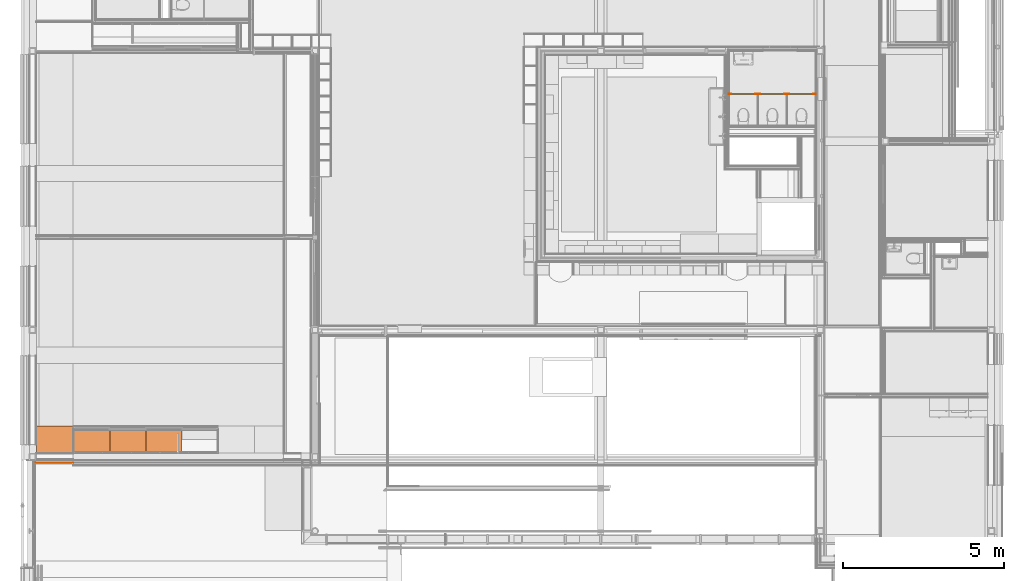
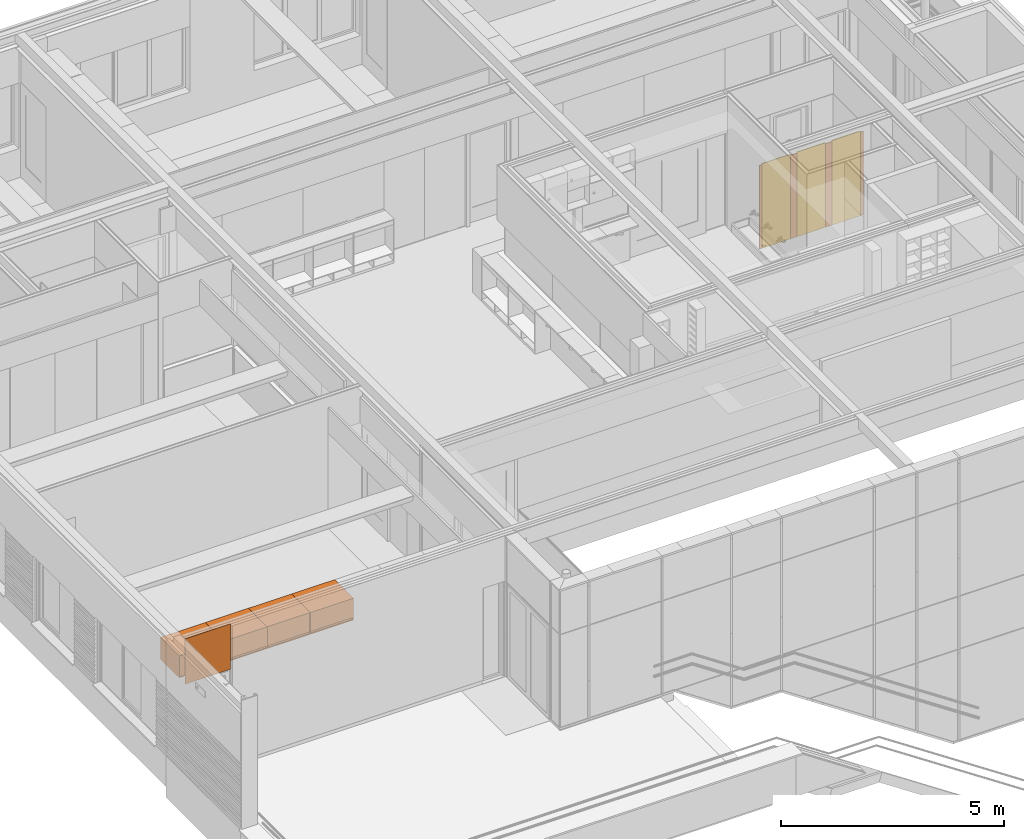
# One storey, part 126 of 137: 6 proxies, 3 doors, 3 openings.
"""IFC2X3 building model written with IfcOpenShell, lengths in millimetres."""

from ifc_helpers import new_model, entity, si_unit, converted_unit, derived_unit, money_unit, direction, frame, origin_with_axes, place, context, subcontext, project, spatial, faceted_brep, source, transform, mapped, material, type_object, type_shapes, element, fill, save


model = new_model("IFC2X3")

# Units and contexts
model_context = context("Model", 3, precision=0.01, world=origin_with_axes(), true_north=direction((0.0, 1.0)))
body_context = subcontext(model_context, "Body", "Model", "MODEL_VIEW")
ifc_project = project(units=[si_unit("LENGTHUNIT", "METRE", prefix="MILLI"), si_unit("AREAUNIT", "SQUARE_METRE"), si_unit("VOLUMEUNIT", "CUBIC_METRE"), converted_unit("PLANEANGLEUNIT", "DEGREE", entity("IfcPlaneAngleMeasure", 0.0174532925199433), si_unit("PLANEANGLEUNIT", "RADIAN"), dimensions=[0, 0, 0, 0, 0, 0, 0]), money_unit("EUR"), converted_unit("TIMEUNIT", "Year", entity("IfcTimeMeasure", 31556926.0), si_unit("TIMEUNIT", "SECOND"), dimensions=[0, 0, 1, 0, 0, 0, 0]), si_unit("MASSUNIT", "GRAM", prefix="KILO"), si_unit("THERMODYNAMICTEMPERATUREUNIT", "DEGREE_CELSIUS"), si_unit("LUMINOUSINTENSITYUNIT", "LUMEN"), si_unit("ENERGYUNIT", "JOULE", prefix="MEGA"), derived_unit("THERMALCONDUCTANCEUNIT", [(si_unit("POWERUNIT", "WATT"), 1), (si_unit("LENGTHUNIT", "METRE"), -1), (si_unit("THERMODYNAMICTEMPERATUREUNIT", "KELVIN"), -1)]), derived_unit("SPECIFICHEATCAPACITYUNIT", [(si_unit("ENERGYUNIT", "JOULE"), 1), (si_unit("MASSUNIT", "GRAM", prefix="KILO"), -1), (si_unit("THERMODYNAMICTEMPERATUREUNIT", "KELVIN"), -1)]), derived_unit("MASSDENSITYUNIT", [(si_unit("MASSUNIT", "GRAM", prefix="KILO"), 1), (si_unit("VOLUMEUNIT", "CUBIC_METRE"), -1)])], contexts=[model_context])

# Site, building, storey
site_placement = place(None, origin_with_axes())
site = spatial("IfcSite", under=ifc_project, at=site_placement, Name="Site", CompositionType="ELEMENT")
building_placement = place(site_placement, origin_with_axes())
building = spatial("IfcBuilding", under=site, at=building_placement, Name="Naam gebouw", CompositionType="ELEMENT")
storey_placement = place(building_placement, frame((0.0, 0.0, 3960.0), z_axis=(0.0, 0.0, 1.0), x_axis=(1.0, 0.0, 0.0)))
storey = spatial("IfcBuildingStorey", under=building, at=storey_placement, Name="1e verdieping", CompositionType="ELEMENT", Elevation=3960.0)

# Proxy, openings, doors
ifc_material_1 = material(Name="ALG - ALGEMEEN")
building_element_proxy_type_1 = type_object("IfcBuildingElementProxyType", Name="ALG - ALGEMEEN 20", PredefinedType="NOTDEFINED")
proxy_1_placement = place(storey_placement, frame((21664.99903999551, 18114.9998112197, 99.99999999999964), z_axis=(0.0, 0.0, 1.0), x_axis=(1.0, 0.0, 0.0)))
proxy_1 = element("IfcBuildingElementProxy", 1, at=proxy_1_placement, inside=storey, type_object=building_element_proxy_type_1, material=ifc_material_1, Name="_Wand-x", context=body_context, shape_type="Brep", body=[
    faceted_brep([(1879.999999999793, 10.00000000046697, 2290.0), (1879.999999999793, 10.00000000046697, 0.0), (1719.999999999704, 10.00000000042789, 0.0), (1719.999999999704, 10.00000000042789, 2290.0), (1879.9999999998, -9.999999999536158, 0.0), (1879.9999999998, -9.999999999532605, 2290.0), (1719.999999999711, -9.999999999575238, 0.0), (1719.999999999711, -9.999999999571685, 2290.0)], [[[0, 1, 2, 3]], [[4, 1, 0, 5]], [[1, 4, 6, 2]], [[2, 6, 7, 3]], [[5, 0, 3, 7]], [[4, 5, 7, 6]]]),
    faceted_brep([(2619.999999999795, 10.00000000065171, 0.0), (2619.999999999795, 10.00000000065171, 2290.0), (2699.999999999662, 10.00000000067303, 2290.0), (2699.999999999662, 10.00000000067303, 0.0), (2619.999999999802, -9.999999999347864, 2290.0), (2619.999999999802, -9.999999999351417, 0.0), (2699.999999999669, -9.999999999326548, 2290.0), (2699.999999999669, -9.9999999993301, 0.0)], [[[0, 1, 2, 3]], [[4, 1, 0, 5]], [[1, 4, 6, 2]], [[6, 7, 3, 2]], [[5, 0, 3, 7]], [[4, 5, 7, 6]]]),
    faceted_brep([(74.99960070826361, -9.9999999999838, 2290.0), (74.99960070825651, 10.00000000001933, 2290.0), (0.0, 10.00000000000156, 2290.0), (0.0, -10.00000000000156, 2290.0), (74.99960070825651, 10.00000000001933, 0.0), (74.99960070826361, -9.9999999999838, 0.0), (0.0, 10.00000000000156, 0.0), (0.0, -10.00000000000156, 0.0)], [[[0, 1, 2, 3]], [[4, 1, 0, 5]], [[1, 4, 6, 2]], [[6, 7, 3, 2]], [[5, 0, 3, 7]], [[4, 5, 7, 6]]]),
    faceted_brep([(814.9996007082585, 10.00000000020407, 0.0), (814.9996007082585, 10.00000000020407, 2290.0), (979.999999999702, 10.0000000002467, 2290.0), (979.999999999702, 10.0000000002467, 0.0), (814.9996007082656, -9.999999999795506, 2290.0), (814.9996007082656, -9.999999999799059, 0.0), (979.9999999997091, -9.999999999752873, 2290.0), (979.9999999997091, -9.999999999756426, 0.0)], [[[0, 1, 2, 3]], [[4, 1, 0, 5]], [[1, 4, 6, 2]], [[2, 6, 7, 3]], [[5, 0, 3, 7]], [[4, 5, 7, 6]]]),
])
opening_1_placement = place(proxy_1_placement, frame((1349.99999999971, -3.339550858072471e-10, 0.0), z_axis=(0.0, 0.0, 1.0), x_axis=(1.0, 0.0, 0.0)))
opening_1 = element("IfcOpeningElement", 2, at=opening_1_placement, cuts=proxy_1, Name="_-", context=body_context, shape_type="Brep", body=[
    faceted_brep([(-370.000000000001, -11.00000000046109, 2320.0), (-370.000000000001, -11.00000000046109, -69.99999999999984), (370.000000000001, -11.0000000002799, -69.99999999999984), (370.000000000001, -11.0000000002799, 2320.0), (-370.0000000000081, 11.00000000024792, 2320.0), (-370.0000000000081, 11.00000000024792, -69.99999999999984), (369.9999999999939, 11.00000000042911, -69.99999999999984), (369.9999999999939, 11.00000000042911, 2320.0)], [[[0, 1, 2, 3]], [[4, 5, 1, 0]], [[5, 6, 2, 1]], [[6, 7, 3, 2]], [[7, 4, 0, 3]], [[6, 5, 4, 7]]]),
])
opening_2_placement = place(proxy_1_placement, frame((444.9996007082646, -1.101341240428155e-10, 0.0), z_axis=(0.0, 0.0, 1.0), x_axis=(1.0, 0.0, 0.0)))
opening_2 = element("IfcOpeningElement", 3, at=opening_2_placement, cuts=proxy_1, Name="_-", context=body_context, shape_type="Brep", body=[
    faceted_brep([(-370.000000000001, -11.00000000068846, 2320.0), (-370.000000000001, -11.00000000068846, -69.99999999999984), (370.000000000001, -11.00000000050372, -69.99999999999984), (370.000000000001, -11.00000000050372, 2320.0), (-370.0000000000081, 11.00000000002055, 2320.0), (-370.0000000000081, 11.00000000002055, -69.99999999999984), (369.9999999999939, 11.00000000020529, -69.99999999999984), (369.9999999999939, 11.00000000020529, 2320.0)], [[[0, 1, 2, 3]], [[4, 5, 1, 0]], [[5, 6, 2, 1]], [[6, 7, 3, 2]], [[7, 4, 0, 3]], [[6, 5, 4, 7]]]),
])
opening_3_placement = place(proxy_1_placement, frame((2249.999999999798, -5.577760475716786e-10, 0.0), z_axis=(0.0, 0.0, 1.0), x_axis=(1.0, 0.0, 0.0)))
opening_3 = element("IfcOpeningElement", 4, at=opening_3_placement, cuts=proxy_1, Name="_-", context=body_context, shape_type="Brep", body=[
    faceted_brep([(-369.9999999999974, -11.00000000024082, 2320.0), (-369.9999999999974, -11.00000000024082, -69.99999999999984), (370.0000000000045, -11.00000000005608, -69.99999999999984), (370.0000000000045, -11.00000000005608, 2320.0), (-370.0000000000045, 11.00000000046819, 2320.0), (-370.0000000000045, 11.00000000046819, -69.99999999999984), (369.9999999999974, 11.00000000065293, -69.99999999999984), (369.9999999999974, 11.00000000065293, 2320.0)], [[[0, 1, 2, 3]], [[4, 5, 1, 0]], [[5, 6, 2, 1]], [[6, 7, 3, 2]], [[7, 4, 0, 3]], [[6, 5, 4, 7]]]),
])
door_style_1 = type_object("IfcDoorStyle", Name="D1 26", ConstructionType="NOTDEFINED", OperationType="SINGLE_SWING_RIGHT", ParameterTakesPrecedence=False, Sizeable=False)
shared_shape_1 = source(origin_with_axes(), body_context, "Body", "Brep", [
    faceted_brep([(-367.0, -20.0, 0.0), (-367.0, -20.0, 2300.0), (-370.0, -20.0, 2300.0), (-370.0, -20.0, 0.0), (-367.0, 0.0, 2300.0), (-367.0, 0.0, 0.0), (-370.0, 0.0, 2300.0), (-370.0, 0.0, 0.0)], [[[0, 1, 2, 3]], [[4, 1, 0, 5]], [[1, 4, 6, 2]], [[7, 3, 2, 6]], [[5, 0, 3, 7]], [[4, 5, 7, 6]]]),
    faceted_brep([(367.0, 0.0, 2300.0), (367.0, -20.0, 2300.0), (370.0, -20.0, 2300.0), (370.0, 0.0, 2300.0), (367.0, -20.0, 0.0), (367.0, 0.0, 0.0), (370.0, -20.0, 0.0), (370.0, 0.0, 0.0)], [[[0, 1, 2, 3]], [[4, 1, 0, 5]], [[1, 4, 6, 2]], [[3, 2, 6, 7]], [[5, 0, 3, 7]], [[4, 5, 7, 6]]]),
    faceted_brep([(-367.0, -20.0, 2300.0), (-367.0, -20.0, 2317.0), (367.0, -20.0, 2317.0), (367.0, -20.0, 2300.0), (370.0, -20.0, 2300.0), (370.0, -20.0, 2320.0), (-370.0, -20.0, 2320.0), (-370.0, -20.0, 2300.0), (-367.0, 0.0, 2300.0), (-367.0, 0.0, 2317.0), (367.0, 0.0, 2317.0), (367.0, 0.0, 2300.0), (370.0, 0.0, 2300.0), (370.0, 0.0, 2320.0), (-370.0, 0.0, 2320.0), (-370.0, 0.0, 2300.0)], [[[0, 1, 2, 3, 4, 5, 6, 7]], [[1, 0, 8, 9]], [[2, 1, 9, 10]], [[3, 2, 10, 11]], [[3, 11, 12, 4]], [[13, 5, 4, 12]], [[14, 6, 5, 13]], [[15, 7, 6, 14]], [[8, 0, 7, 15]], [[9, 8, 15, 14, 13, 12, 11, 10]]]),
    faceted_brep([(367.0, 0.0, 0.0), (367.0, -20.0, 0.0), (-367.0, -20.0, 0.0), (-367.0, 0.0, 0.0), (367.0, 0.0, 2317.0), (367.0, -20.00000000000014, 2317.0), (-367.0, -20.00000000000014, 2317.0), (-367.0, 0.0, 2317.0)], [[[0, 1, 2, 3]], [[4, 5, 1, 0]], [[1, 5, 6, 2]], [[3, 2, 6, 7]], [[0, 3, 7, 4]], [[7, 6, 5, 4]]]),
])
type_shapes(door_style_1, [shared_shape_1])
door_1_placement = place(opening_3_placement, frame((-350.0000000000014, 0.0, 0.0), z_axis=(0.0, 0.0, 1.0), x_axis=(1.0, 0.0, 0.0)))
door_1 = element("IfcDoor", 5, at=door_1_placement, inside=storey, type_object=door_style_1, Name="_-", ObjectType="DOOR", OverallHeight=2320.0, OverallWidth=740.0, context=body_context, shape_type="MappedRepresentation", body=[
    mapped(shared_shape_1, transform((349.9999999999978, 10.00000000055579, 0.0))),
])
fill(opening_3, door_1)
door_style_2 = type_object("IfcDoorStyle", Name="D1 26", ConstructionType="NOTDEFINED", OperationType="SINGLE_SWING_LEFT", ParameterTakesPrecedence=False, Sizeable=False)
shared_shape_2 = source(origin_with_axes(), body_context, "Body", "Brep", [
    faceted_brep([(367.0, -20.0, 0.0), (370.0, -20.0, 0.0), (370.0, -20.0, 2300.0), (367.0, -20.0, 2300.0), (367.0, 0.0, 0.0), (370.0, 0.0, 0.0), (370.0, 0.0, 2300.0), (367.0, 0.0, 2300.0)], [[[0, 1, 2, 3]], [[4, 5, 1, 0]], [[5, 6, 2, 1]], [[3, 2, 6, 7]], [[7, 4, 0, 3]], [[7, 6, 5, 4]]]),
    faceted_brep([(-367.0, 0.0, 2300.0), (-370.0, 0.0, 2300.0), (-370.0, -20.0, 2300.0), (-367.0, -20.0, 2300.0), (-367.0, 0.0, 0.0), (-370.0, 0.0, 0.0), (-370.0, -20.0, 0.0), (-367.0, -20.0, 0.0)], [[[0, 1, 2, 3]], [[4, 5, 1, 0]], [[1, 5, 6, 2]], [[3, 2, 6, 7]], [[7, 4, 0, 3]], [[7, 6, 5, 4]]]),
    faceted_brep([(367.0, -20.0, 2300.0), (370.0, -20.0, 2300.0), (370.0, -20.0, 2320.0), (-370.0, -20.0, 2320.0), (-370.0, -20.0, 2300.0), (-367.0, -20.0, 2300.0), (-367.0, -20.0, 2317.0), (367.0, -20.0, 2317.0), (367.0, 0.0, 2300.0), (370.0, 0.0, 2300.0), (370.0, 0.0, 2320.0), (-370.0, 0.0, 2320.0), (-370.0, 0.0, 2300.0), (-367.0, 0.0, 2300.0), (-367.0, 0.0, 2317.0), (367.0, 0.0, 2317.0)], [[[0, 1, 2, 3, 4, 5, 6, 7]], [[8, 9, 1, 0]], [[9, 10, 2, 1]], [[10, 11, 3, 2]], [[11, 12, 4, 3]], [[5, 4, 12, 13]], [[5, 13, 14, 6]], [[6, 14, 15, 7]], [[7, 15, 8, 0]], [[15, 14, 13, 12, 11, 10, 9, 8]]]),
    faceted_brep([(-367.0, 0.0, 0.0), (367.0, 0.0, 0.0), (367.0, -20.0, 0.0), (-367.0, -20.0, 0.0), (-367.0, 0.0, 2317.0), (367.0, 0.0, 2317.0), (367.0, -20.00000000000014, 2317.0), (-367.0, -20.00000000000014, 2317.0)], [[[0, 1, 2, 3]], [[0, 4, 5, 1]], [[1, 5, 6, 2]], [[3, 2, 6, 7]], [[4, 0, 3, 7]], [[5, 4, 7, 6]]]),
])
type_shapes(door_style_2, [shared_shape_2])
door_2_placement = place(opening_1_placement, frame((-350.0000000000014, 0.0, 0.0), z_axis=(0.0, 0.0, 1.0), x_axis=(1.0, 0.0, 0.0)))
door_2 = element("IfcDoor", 6, at=door_2_placement, inside=storey, type_object=door_style_2, Name="_-", ObjectType="DOOR", OverallHeight=2320.0, OverallWidth=740.0, context=body_context, shape_type="MappedRepresentation", body=[
    mapped(shared_shape_2, transform((349.9999999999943, 10.00000000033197, 0.0))),
])
fill(opening_1, door_2)
door_3_placement = place(opening_2_placement, frame((-350.0000000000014, 0.0, 0.0), z_axis=(0.0, 0.0, 1.0), x_axis=(1.0, 0.0, 0.0)))
door_3 = element("IfcDoor", 7, at=door_3_placement, inside=storey, type_object=door_style_2, Name="_-", ObjectType="DOOR", OverallHeight=2320.0, OverallWidth=740.0, context=body_context, shape_type="MappedRepresentation", body=[
    mapped(shared_shape_2, transform((349.9999999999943, 10.00000000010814, 0.0))),
])
fill(opening_2, door_3)

# Proxies
building_element_proxy_type_2 = type_object("IfcBuildingElementProxyType", Name="Onderkast recht 26", PredefinedType="NOTDEFINED")
proxy_2_placement = place(storey_placement, frame((1373.999999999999, 6993.999661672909, 2600.0), z_axis=(0.0, 0.0, 1.0), x_axis=(-1.0, 0.0, 0.0)))
element("IfcBuildingElementProxy", 8, at=proxy_2_placement, inside=storey, type_object=building_element_proxy_type_2, Name="_Leeg", context=body_context, shape_type="Brep", body=[
    faceted_brep([(-1102.000141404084, -1.999999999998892, 0.0), (-1102.000141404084, -1.999999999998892, 17.99999999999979), (-1102.000141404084, 0.0, 17.99999999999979), (-1102.000141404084, 0.0, 0.0), (-18.00000000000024, -1.999999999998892, 17.99999999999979), (-18.00000000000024, -1.999999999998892, 0.0), (-18.00000000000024, 0.0, 17.99999999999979), (-18.00000000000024, 0.0, 0.0)], [[[0, 1, 2, 3]], [[4, 1, 0, 5]], [[1, 4, 6, 2]], [[7, 3, 2, 6]], [[5, 0, 3, 7]], [[4, 5, 7, 6]]]),
    faceted_brep([(-1102.000141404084, -8.999999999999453, 69.99999999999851), (-1102.000141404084, -17.99999999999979, 69.99999999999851), (-1102.000141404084, -17.99999999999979, 581.9999999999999), (-1102.000141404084, -8.999999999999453, 581.9999999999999), (-18.00000000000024, -17.99999999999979, 69.99999999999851), (-18.00000000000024, -9.000000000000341, 69.99999999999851), (-18.00000000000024, -17.99999999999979, 581.9999999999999), (-18.00000000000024, -9.000000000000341, 581.9999999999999)], [[[0, 1, 2, 3]], [[4, 1, 0, 5]], [[1, 4, 6, 2]], [[7, 3, 2, 6]], [[5, 0, 3, 7]], [[4, 5, 7, 6]]]),
    faceted_brep([(-1102.000141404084, -827.0, 581.9999999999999), (-18.00000000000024, -827.0, 581.9999999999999), (-18.00000000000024, -827.0, 599.9999999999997), (-1102.000141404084, -827.0, 599.9999999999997), (-18.00000000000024, 0.0, 581.9999999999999), (-1102.000141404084, 0.0, 581.9999999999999), (-18.00000000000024, 0.0, 599.9999999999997), (-1102.000141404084, 0.0, 599.9999999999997)], [[[0, 1, 2, 3]], [[4, 1, 0, 5]], [[1, 4, 6, 2]], [[3, 2, 6, 7]], [[5, 0, 3, 7]], [[4, 5, 7, 6]]]),
    faceted_brep([(-18.00000000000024, -1.999999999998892, 0.0), (-18.00000000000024, -1.999999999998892, 69.99999999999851), (-18.00000000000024, -21.99999999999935, 69.99999999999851), (-18.00000000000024, -21.99999999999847, 0.0), (-18.00000000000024, -827.0, 0.0), (-18.00000000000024, -827.0, 599.9999999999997), (-18.00000000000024, 0.0, 599.9999999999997), (-18.00000000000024, 0.0, 0.0), (0.0, -1.999999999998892, 0.0), (0.0, -1.999999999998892, 69.99999999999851), (0.0, -21.99999999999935, 69.99999999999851), (0.0, -21.99999999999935, 0.0), (0.0, -827.0, 0.0), (0.0, -827.0, 599.9999999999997), (0.0, 0.0, 599.9999999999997), (0.0, 0.0, 0.0)], [[[0, 1, 2, 3, 4, 5, 6, 7]], [[1, 0, 8, 9]], [[2, 1, 9, 10]], [[3, 2, 10, 11]], [[3, 11, 12, 4]], [[4, 12, 13, 5]], [[13, 14, 6, 5]], [[15, 7, 6, 14]], [[8, 0, 7, 15]], [[9, 8, 15, 14, 13, 12, 11, 10]]]),
    faceted_brep([(-1120.000141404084, -1.999999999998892, 0.0), (-1120.000141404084, -1.999999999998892, 69.99999999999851), (-1120.000141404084, -21.99999999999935, 69.99999999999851), (-1120.000141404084, -21.99999999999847, 0.0), (-1120.000141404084, -827.0, 0.0), (-1120.000141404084, -827.0, 599.9999999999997), (-1120.000141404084, 0.0, 599.9999999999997), (-1120.000141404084, 0.0, 0.0), (-1102.000141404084, -1.999999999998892, 0.0), (-1102.000141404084, -1.999999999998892, 69.99999999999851), (-1102.000141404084, -21.99999999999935, 69.99999999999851), (-1102.000141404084, -21.99999999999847, 0.0), (-1102.000141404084, -827.0, 0.0), (-1102.000141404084, -827.0, 599.9999999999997), (-1102.000141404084, 0.0, 599.9999999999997), (-1102.000141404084, 0.0, 0.0)], [[[0, 1, 2, 3, 4, 5, 6, 7]], [[1, 0, 8, 9]], [[2, 1, 9, 10]], [[3, 2, 10, 11]], [[3, 11, 12, 4]], [[4, 12, 13, 5]], [[6, 5, 13, 14]], [[15, 7, 6, 14]], [[8, 0, 7, 15]], [[9, 8, 15, 14, 13, 12, 11, 10]]]),
    faceted_brep([(-18.00000000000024, -21.99999999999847, 17.99999999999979), (-1102.000141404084, -21.99999999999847, 17.99999999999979), (-1102.000141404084, -827.0, 17.99999999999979), (-18.00000000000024, -827.0, 17.99999999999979), (-1102.000141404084, -21.99999999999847, 0.0), (-18.00000000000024, -21.99999999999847, 0.0), (-1102.000141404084, -827.0, 0.0), (-18.00000000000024, -827.0, 0.0)], [[[0, 1, 2, 3]], [[4, 1, 0, 5]], [[1, 4, 6, 2]], [[6, 7, 3, 2]], [[5, 0, 3, 7]], [[4, 5, 7, 6]]]),
    faceted_brep([(-1.000000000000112, -827.0, 1.000000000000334), (-1.000000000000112, -844.9999999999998, 1.000000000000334), (-1119.000141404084, -844.9999999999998, 1.000000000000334), (-1119.000141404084, -827.0, 1.000000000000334), (-1.000000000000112, -827.0, 599.0000000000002), (-1.000000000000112, -844.9999999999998, 599.0000000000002), (-1119.000141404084, -844.9999999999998, 599.0000000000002), (-1119.000141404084, -827.0, 599.0000000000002)], [[[0, 1, 2, 3]], [[4, 5, 1, 0]], [[1, 5, 6, 2]], [[3, 2, 6, 7]], [[0, 3, 7, 4]], [[7, 6, 5, 4]]]),
])
proxy_3_placement = place(storey_placement, frame((3614.000282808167, 6993.999661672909, 2600.0), z_axis=(0.0, 0.0, 1.0), x_axis=(-1.0, 0.0, 0.0)))
element("IfcBuildingElementProxy", 9, at=proxy_3_placement, inside=storey, type_object=building_element_proxy_type_2, Name="_Leeg", context=body_context, shape_type="Brep", body=[
    faceted_brep([(-1102.000141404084, -1.99999999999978, 0.0), (-1102.000141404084, -1.99999999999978, 17.99999999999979), (-1102.000141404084, 0.0, 17.99999999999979), (-1102.000141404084, 0.0, 0.0), (-17.99999999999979, -1.99999999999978, 17.99999999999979), (-17.99999999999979, -1.99999999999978, 0.0), (-17.99999999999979, 0.0, 17.99999999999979), (-17.99999999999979, 0.0, 0.0)], [[[0, 1, 2, 3]], [[4, 1, 0, 5]], [[1, 4, 6, 2]], [[7, 3, 2, 6]], [[5, 0, 3, 7]], [[4, 5, 7, 6]]]),
    faceted_brep([(-1102.000141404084, -9.000000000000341, 69.99999999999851), (-1102.000141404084, -18.00000000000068, 69.99999999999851), (-1102.000141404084, -18.00000000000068, 581.9999999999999), (-1102.000141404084, -9.000000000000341, 581.9999999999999), (-18.00000000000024, -18.00000000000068, 69.99999999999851), (-17.99999999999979, -9.00000000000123, 69.99999999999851), (-18.00000000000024, -18.00000000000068, 581.9999999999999), (-17.99999999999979, -9.00000000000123, 581.9999999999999)], [[[0, 1, 2, 3]], [[4, 1, 0, 5]], [[1, 4, 6, 2]], [[7, 3, 2, 6]], [[5, 0, 3, 7]], [[4, 5, 7, 6]]]),
    faceted_brep([(-1102.000141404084, -827.0000000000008, 581.9999999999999), (-18.00000000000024, -827.0000000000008, 581.9999999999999), (-18.00000000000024, -827.0000000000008, 599.9999999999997), (-1102.000141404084, -827.0000000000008, 599.9999999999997), (-17.99999999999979, 0.0, 581.9999999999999), (-1102.000141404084, 0.0, 581.9999999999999), (-17.99999999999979, 0.0, 599.9999999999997), (-1102.000141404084, 0.0, 599.9999999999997)], [[[0, 1, 2, 3]], [[4, 1, 0, 5]], [[1, 4, 6, 2]], [[3, 2, 6, 7]], [[5, 0, 3, 7]], [[4, 5, 7, 6]]]),
    faceted_brep([(-17.99999999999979, -1.99999999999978, 0.0), (-18.00000000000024, -1.99999999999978, 69.99999999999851), (-18.00000000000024, -21.99999999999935, 69.99999999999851), (-17.99999999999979, -21.99999999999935, 0.0), (-18.00000000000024, -827.0000000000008, 0.0), (-18.00000000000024, -827.0000000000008, 599.9999999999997), (-17.99999999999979, 0.0, 599.9999999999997), (-17.99999999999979, 0.0, 0.0), (0.0, -1.999999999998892, 0.0), (0.0, -1.999999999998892, 69.99999999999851), (0.0, -21.99999999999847, 69.99999999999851), (0.0, -21.99999999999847, 0.0), (0.0, -827.0, 0.0), (0.0, -827.0, 599.9999999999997), (0.0, 0.0, 599.9999999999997), (0.0, 0.0, 0.0)], [[[0, 1, 2, 3, 4, 5, 6, 7]], [[1, 0, 8, 9]], [[2, 1, 9, 10]], [[3, 2, 10, 11]], [[3, 11, 12, 4]], [[4, 12, 13, 5]], [[13, 14, 6, 5]], [[15, 7, 6, 14]], [[8, 0, 7, 15]], [[9, 8, 15, 14, 13, 12, 11, 10]]]),
    faceted_brep([(-1120.000141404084, -1.99999999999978, 0.0), (-1120.000141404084, -1.99999999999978, 69.99999999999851), (-1120.000141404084, -21.99999999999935, 69.99999999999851), (-1120.000141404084, -21.99999999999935, 0.0), (-1120.000141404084, -827.0000000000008, 0.0), (-1120.000141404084, -827.0000000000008, 599.9999999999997), (-1120.000141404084, 0.0, 599.9999999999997), (-1120.000141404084, 0.0, 0.0), (-1102.000141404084, -1.99999999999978, 0.0), (-1102.000141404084, -1.99999999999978, 69.99999999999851), (-1102.000141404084, -21.99999999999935, 69.99999999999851), (-1102.000141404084, -21.99999999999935, 0.0), (-1102.000141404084, -827.0000000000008, 0.0), (-1102.000141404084, -827.0000000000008, 599.9999999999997), (-1102.000141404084, 0.0, 599.9999999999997), (-1102.000141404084, 0.0, 0.0)], [[[0, 1, 2, 3, 4, 5, 6, 7]], [[1, 0, 8, 9]], [[2, 1, 9, 10]], [[3, 2, 10, 11]], [[3, 11, 12, 4]], [[4, 12, 13, 5]], [[6, 5, 13, 14]], [[15, 7, 6, 14]], [[8, 0, 7, 15]], [[9, 8, 15, 14, 13, 12, 11, 10]]]),
    faceted_brep([(-17.99999999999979, -21.99999999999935, 17.99999999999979), (-1102.000141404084, -21.99999999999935, 17.99999999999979), (-1102.000141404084, -827.0000000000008, 17.99999999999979), (-18.00000000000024, -827.0000000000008, 17.99999999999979), (-1102.000141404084, -21.99999999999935, 0.0), (-17.99999999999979, -21.99999999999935, 0.0), (-1102.000141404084, -827.0000000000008, 0.0), (-18.00000000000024, -827.0000000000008, 0.0)], [[[0, 1, 2, 3]], [[4, 1, 0, 5]], [[1, 4, 6, 2]], [[6, 7, 3, 2]], [[5, 0, 3, 7]], [[4, 5, 7, 6]]]),
    faceted_brep([(-0.9999999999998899, -827.0, 1.000000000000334), (-0.9999999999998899, -844.9999999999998, 1.000000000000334), (-1119.000141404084, -845.0000000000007, 1.000000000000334), (-1119.000141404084, -827.0000000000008, 1.000000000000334), (-0.9999999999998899, -827.0, 599.0000000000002), (-0.9999999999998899, -844.9999999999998, 599.0000000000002), (-1119.000141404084, -845.0000000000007, 599.0000000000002), (-1119.000141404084, -827.0000000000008, 599.0000000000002)], [[[0, 1, 2, 3]], [[4, 5, 1, 0]], [[1, 5, 6, 2]], [[3, 2, 6, 7]], [[0, 3, 7, 4]], [[7, 6, 5, 4]]]),
])
proxy_4_placement = place(storey_placement, frame((2494.000141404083, 6993.999661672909, 2600.0), z_axis=(0.0, 0.0, 1.0), x_axis=(-1.0, 0.0, 0.0)))
element("IfcBuildingElementProxy", 10, at=proxy_4_placement, inside=storey, type_object=building_element_proxy_type_2, Name="_Leeg", context=body_context, shape_type="Brep", body=[
    faceted_brep([(-1102.000141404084, -1.999999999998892, 0.0), (-1102.000141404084, -1.999999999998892, 17.99999999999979), (-1102.000141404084, 0.0, 17.99999999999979), (-1102.000141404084, 0.0, 0.0), (-17.99999999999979, -1.999999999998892, 17.99999999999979), (-17.99999999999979, -1.999999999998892, 0.0), (-17.99999999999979, 0.0, 17.99999999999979), (-17.99999999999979, 0.0, 0.0)], [[[0, 1, 2, 3]], [[4, 1, 0, 5]], [[1, 4, 6, 2]], [[7, 3, 2, 6]], [[5, 0, 3, 7]], [[4, 5, 7, 6]]]),
    faceted_brep([(-1102.000141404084, -8.999999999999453, 69.99999999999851), (-1102.000141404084, -17.99999999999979, 69.99999999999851), (-1102.000141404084, -17.99999999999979, 581.9999999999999), (-1102.000141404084, -8.999999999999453, 581.9999999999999), (-18.00000000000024, -17.99999999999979, 69.99999999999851), (-17.99999999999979, -9.000000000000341, 69.99999999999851), (-18.00000000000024, -17.99999999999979, 581.9999999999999), (-17.99999999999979, -9.000000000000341, 581.9999999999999)], [[[0, 1, 2, 3]], [[4, 1, 0, 5]], [[1, 4, 6, 2]], [[7, 3, 2, 6]], [[5, 0, 3, 7]], [[4, 5, 7, 6]]]),
    faceted_brep([(-1102.000141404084, -827.0, 581.9999999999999), (-18.00000000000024, -827.0, 581.9999999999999), (-18.00000000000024, -827.0, 599.9999999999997), (-1102.000141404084, -827.0, 599.9999999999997), (-17.99999999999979, 0.0, 581.9999999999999), (-1102.000141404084, 0.0, 581.9999999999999), (-17.99999999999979, 0.0, 599.9999999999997), (-1102.000141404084, 0.0, 599.9999999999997)], [[[0, 1, 2, 3]], [[4, 1, 0, 5]], [[1, 4, 6, 2]], [[3, 2, 6, 7]], [[5, 0, 3, 7]], [[4, 5, 7, 6]]]),
    faceted_brep([(-17.99999999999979, -1.999999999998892, 0.0), (-18.00000000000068, -1.999999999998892, 69.99999999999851), (-18.00000000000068, -21.99999999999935, 69.99999999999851), (-17.99999999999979, -21.99999999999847, 0.0), (-18.00000000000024, -827.0, 0.0), (-18.00000000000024, -827.0, 599.9999999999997), (-17.99999999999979, 0.0, 599.9999999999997), (-17.99999999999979, 0.0, 0.0), (0.0, -1.999999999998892, 0.0), (0.0, -1.999999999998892, 69.99999999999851), (0.0, -21.99999999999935, 69.99999999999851), (0.0, -21.99999999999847, 0.0), (0.0, -827.0, 0.0), (0.0, -827.0, 599.9999999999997), (0.0, 0.0, 599.9999999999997), (0.0, 0.0, 0.0)], [[[0, 1, 2, 3, 4, 5, 6, 7]], [[1, 0, 8, 9]], [[2, 1, 9, 10]], [[3, 2, 10, 11]], [[3, 11, 12, 4]], [[4, 12, 13, 5]], [[13, 14, 6, 5]], [[15, 7, 6, 14]], [[8, 0, 7, 15]], [[9, 8, 15, 14, 13, 12, 11, 10]]]),
    faceted_brep([(-1120.000141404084, -1.999999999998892, 0.0), (-1120.000141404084, -1.999999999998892, 69.99999999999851), (-1120.000141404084, -21.99999999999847, 69.99999999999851), (-1120.000141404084, -21.99999999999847, 0.0), (-1120.000141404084, -827.0, 0.0), (-1120.000141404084, -827.0, 599.9999999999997), (-1120.000141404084, 0.0, 599.9999999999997), (-1120.000141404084, 0.0, 0.0), (-1102.000141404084, -1.999999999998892, 0.0), (-1102.000141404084, -1.999999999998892, 69.99999999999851), (-1102.000141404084, -21.99999999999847, 69.99999999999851), (-1102.000141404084, -21.99999999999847, 0.0), (-1102.000141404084, -827.0, 0.0), (-1102.000141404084, -827.0, 599.9999999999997), (-1102.000141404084, 0.0, 599.9999999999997), (-1102.000141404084, 0.0, 0.0)], [[[0, 1, 2, 3, 4, 5, 6, 7]], [[1, 0, 8, 9]], [[2, 1, 9, 10]], [[3, 2, 10, 11]], [[3, 11, 12, 4]], [[4, 12, 13, 5]], [[6, 5, 13, 14]], [[15, 7, 6, 14]], [[8, 0, 7, 15]], [[9, 8, 15, 14, 13, 12, 11, 10]]]),
    faceted_brep([(-17.99999999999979, -21.99999999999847, 17.99999999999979), (-1102.000141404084, -21.99999999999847, 17.99999999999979), (-1102.000141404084, -827.0, 17.99999999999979), (-18.00000000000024, -827.0, 17.99999999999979), (-1102.000141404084, -21.99999999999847, 0.0), (-17.99999999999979, -21.99999999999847, 0.0), (-1102.000141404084, -827.0, 0.0), (-18.00000000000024, -827.0, 0.0)], [[[0, 1, 2, 3]], [[4, 1, 0, 5]], [[1, 4, 6, 2]], [[6, 7, 3, 2]], [[5, 0, 3, 7]], [[4, 5, 7, 6]]]),
    faceted_brep([(-0.9999999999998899, -827.0, 1.000000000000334), (-0.9999999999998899, -844.9999999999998, 1.000000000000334), (-1119.000141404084, -844.9999999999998, 1.000000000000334), (-1119.000141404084, -827.0, 1.000000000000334), (-0.9999999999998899, -827.0, 599.0000000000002), (-0.9999999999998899, -844.9999999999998, 599.0000000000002), (-1119.000141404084, -844.9999999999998, 599.0000000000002), (-1119.000141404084, -827.0, 599.0000000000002)], [[[0, 1, 2, 3]], [[4, 5, 1, 0]], [[1, 5, 6, 2]], [[3, 2, 6, 7]], [[0, 3, 7, 4]], [[7, 6, 5, 4]]]),
])
proxy_5_placement = place(storey_placement, frame((214.0, 6993.99966167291, 2600.0), z_axis=(0.0, 0.0, 1.0), x_axis=(-1.0, 0.0, 0.0)))
element("IfcBuildingElementProxy", 11, at=proxy_5_placement, inside=storey, type_object=building_element_proxy_type_2, Name="_Leeg", context=body_context, shape_type="Brep", body=[
    faceted_brep([(-1.0, -826.9999999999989, 1.0), (-1.0, -844.9999999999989, 1.000000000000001), (-1158.999999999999, -844.9999999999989, 1.000000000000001), (-1158.999999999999, -826.9999999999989, 1.0), (-1.0, -826.9999999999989, 599.0), (-1.0, -844.9999999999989, 599.0), (-1158.999999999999, -844.9999999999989, 599.0), (-1158.999999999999, -826.9999999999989, 599.0)], [[[0, 1, 2, 3]], [[4, 5, 1, 0]], [[1, 5, 6, 2]], [[3, 2, 6, 7]], [[0, 3, 7, 4]], [[7, 6, 5, 4]]]),
    faceted_brep([(-18.0, -826.9999999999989, 0.0), (-18.0, -826.9999999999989, 18.0), (-1141.999999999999, -826.9999999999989, 18.0), (-1141.999999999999, -826.9999999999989, 0.0), (-18.0, 0.0, 0.0), (-18.0, 0.0, 18.0), (-1141.999999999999, 0.0, 18.0), (-1141.999999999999, 0.0, 0.0)], [[[0, 1, 2, 3]], [[4, 5, 1, 0]], [[1, 5, 6, 2]], [[3, 2, 6, 7]], [[0, 3, 7, 4]], [[7, 6, 5, 4]]]),
    faceted_brep([(-18.0, -826.9999999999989, 582.0), (-18.0, -826.9999999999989, 600.0), (-1141.999999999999, -826.9999999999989, 600.0), (-1141.999999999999, -826.9999999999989, 582.0), (-18.0, 0.0, 582.0), (-18.0, 0.0, 600.0), (-1141.999999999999, 0.0, 600.0), (-1141.999999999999, 0.0, 582.0)], [[[0, 1, 2, 3]], [[4, 5, 1, 0]], [[1, 5, 6, 2]], [[3, 2, 6, 7]], [[0, 3, 7, 4]], [[7, 6, 5, 4]]]),
    faceted_brep([(0.0, 0.0, 0.0), (0.0, 0.0, 600.0), (0.0, -826.9999999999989, 600.0), (0.0, -826.9999999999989, 0.0), (-18.0, 0.0, 0.0), (-18.0, 0.0, 600.0), (-18.0, -826.9999999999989, 600.0), (-18.0, -826.9999999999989, 0.0)], [[[0, 1, 2, 3]], [[4, 5, 1, 0]], [[1, 5, 6, 2]], [[3, 2, 6, 7]], [[0, 3, 7, 4]], [[7, 6, 5, 4]]]),
    faceted_brep([(-1159.999999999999, -826.9999999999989, 0.0), (-1159.999999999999, -826.9999999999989, 600.0), (-1159.999999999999, 0.0, 600.0), (-1159.999999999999, 0.0, 0.0), (-1141.999999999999, -826.9999999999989, 0.0), (-1141.999999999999, -826.9999999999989, 600.0), (-1141.999999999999, 0.0, 600.0), (-1141.999999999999, 0.0, 0.0)], [[[0, 1, 2, 3]], [[4, 5, 1, 0]], [[1, 5, 6, 2]], [[3, 2, 6, 7]], [[0, 3, 7, 4]], [[7, 6, 5, 4]]]),
    faceted_brep([(-1141.999999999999, -9.0, 18.0), (-1141.999999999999, -9.0, 582.0), (-18.00000000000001, -9.0, 582.0), (-18.00000000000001, -9.0, 18.0), (-1141.999999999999, -18.0, 18.0), (-1141.999999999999, -18.0, 582.0), (-18.00000000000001, -18.0, 582.0), (-18.00000000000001, -18.0, 18.0)], [[[0, 1, 2, 3]], [[4, 5, 1, 0]], [[1, 5, 6, 2]], [[3, 2, 6, 7]], [[0, 3, 7, 4]], [[7, 6, 5, 4]]]),
])
ifc_material_2 = material(Name="STO pleisterlaag")
building_element_proxy_type_3 = type_object("IfcBuildingElementProxyType", Name="STO pleisterlaag 3", PredefinedType="NOTDEFINED")
proxy_6_placement = place(storey_placement, frame((1363.999948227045, 6699.999999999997, 2610.0), z_axis=(0.0, 0.0, 1.0), x_axis=(-1.0, 0.0, 0.0)))
element("IfcBuildingElementProxy", 12, at=proxy_6_placement, inside=storey, type_object=building_element_proxy_type_3, material=ifc_material_2, Name="_Wand-x", context=body_context, shape_type="Brep", body=[
    faceted_brep([(0.0, 0.0, 0.0), (1169.999948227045, 0.0, 0.0), (1169.999948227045, -3.000000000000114, 0.0), (0.0, -3.000000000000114, 0.0), (0.0, 0.0, 1245.000048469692), (1169.999948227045, 0.0, 1245.000048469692), (1169.999948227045, -3.000000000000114, 1245.000048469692), (0.0, -3.000000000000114, 1245.000048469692)], [[[0, 1, 2, 3]], [[4, 5, 1, 0]], [[2, 1, 5, 6]], [[3, 2, 6, 7]], [[4, 0, 3, 7]], [[7, 6, 5, 4]]]),
])

save(model, "model.ifc")
